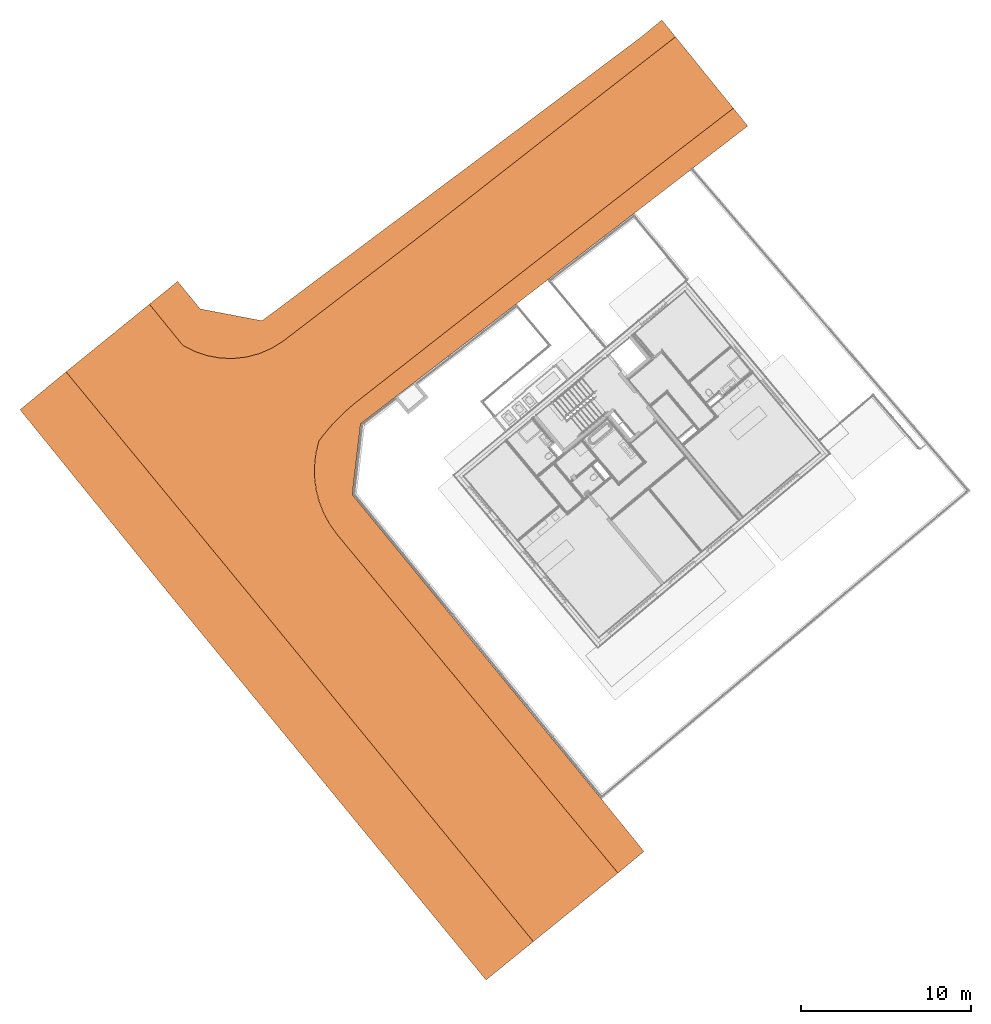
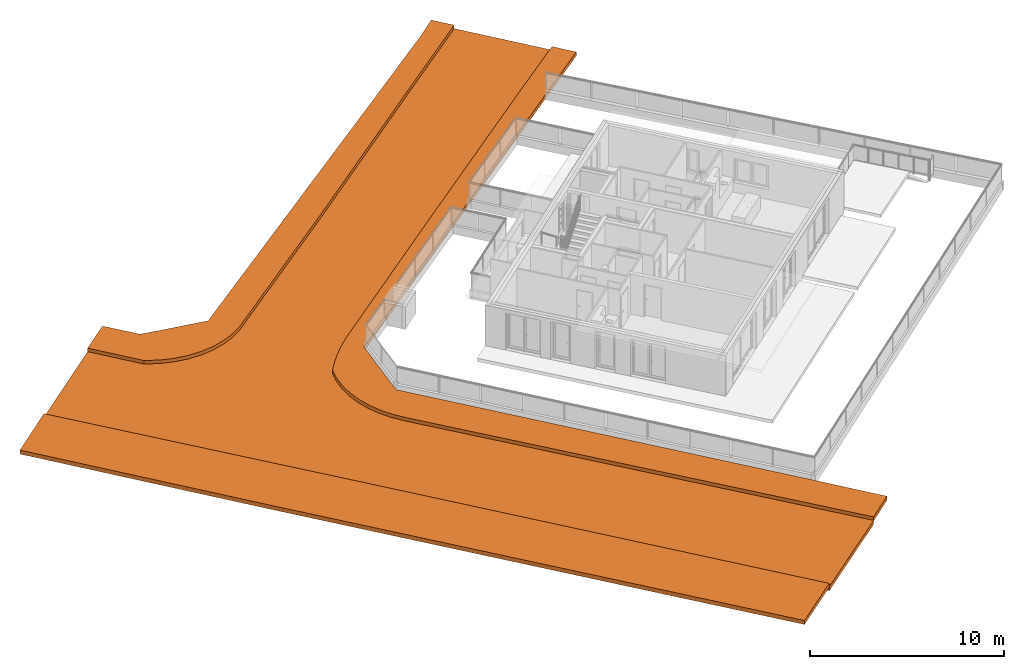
# One storey, part 75 of 75: 4 proxies.
"""IFC4 building model written with IfcOpenShell, lengths in metres."""

from ifc_helpers import new_model, entity, si_unit, converted_unit, derived_unit, direction, frame, origin_with_axes, place, context, subcontext, project, spatial, polygons, material, type_object, element, save


model = new_model("IFC4")

# Units and contexts
model_context = context("Model", 3, precision=1e-05, world=origin_with_axes(), true_north=direction((0.0, 1.0)))
body_context = subcontext(model_context, "Body", "Model", "MODEL_VIEW")
ifc_project = project(units=[si_unit("LENGTHUNIT", "METRE"), si_unit("AREAUNIT", "SQUARE_METRE"), si_unit("VOLUMEUNIT", "CUBIC_METRE"), converted_unit("PLANEANGLEUNIT", "DEGREE", entity("IfcPlaneAngleMeasure", 0.0174532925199), si_unit("PLANEANGLEUNIT", "RADIAN"), dimensions=[0, 0, 0, 0, 0, 0, 0]), converted_unit("TIMEUNIT", "Year", entity("IfcTimeMeasure", 31556926.0), si_unit("TIMEUNIT", "SECOND"), dimensions=[0, 0, 1, 0, 0, 0, 0]), si_unit("MASSUNIT", "GRAM", prefix="KILO"), si_unit("THERMODYNAMICTEMPERATUREUNIT", "DEGREE_CELSIUS"), si_unit("LUMINOUSINTENSITYUNIT", "LUMEN"), si_unit("ENERGYUNIT", "JOULE", prefix="MEGA"), derived_unit("THERMALCONDUCTANCEUNIT", [(si_unit("POWERUNIT", "WATT"), 1), (si_unit("LENGTHUNIT", "METRE"), -1), (si_unit("THERMODYNAMICTEMPERATUREUNIT", "KELVIN"), -1)]), derived_unit("SPECIFICHEATCAPACITYUNIT", [(si_unit("ENERGYUNIT", "JOULE"), 1), (si_unit("MASSUNIT", "GRAM", prefix="KILO"), -1), (si_unit("THERMODYNAMICTEMPERATUREUNIT", "KELVIN"), -1)]), derived_unit("MASSDENSITYUNIT", [(si_unit("MASSUNIT", "GRAM", prefix="KILO"), 1), (si_unit("VOLUMEUNIT", "CUBIC_METRE"), -1)])], contexts=[model_context])

# Site, building, storey
site_placement = place(None, frame((-0.00153261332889, -0.00661245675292, 0.0), z_axis=(0.0, 0.0, 1.0), x_axis=(1.0, 0.0, 0.0)))
site = spatial("IfcSite", under=ifc_project, at=site_placement, Name="Gelände", CompositionType="ELEMENT")
building_placement = place(site_placement, origin_with_axes())
building = spatial("IfcBuilding", under=site, at=building_placement, Name="Gebäude", CompositionType="ELEMENT")
storey_placement = place(building_placement, frame((0.0, 0.0, -0.22), z_axis=(0.0, 0.0, 1.0), x_axis=(1.0, 0.0, 0.0)))
storey = spatial("IfcBuildingStorey", under=building, at=storey_placement, Name="EG", CompositionType="ELEMENT", Elevation=-0.22)

# Proxies
ifc_material_1 = material(Name="Pflaster")
building_element_proxy_type_1 = type_object("IfcBuildingElementProxyType", Name="Pflaster", PredefinedType="USERDEFINED")
proxy_1_placement = place(storey_placement, frame((-26.5259554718, 29.0463020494, 0.22), z_axis=(0.0, 0.0, 1.0), x_axis=(1.0, 0.0, 0.0)))
element("IfcBuildingElementProxy", 1, at=proxy_1_placement, inside=storey, type_object=building_element_proxy_type_1, material=ifc_material_1, Name="Morph-004", ObjectType="Verkehrsflaeche", PredefinedType="USERDEFINED", context=body_context, shape_type="Tessellation", body=[
    polygons([(2.64060027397, -2.76313121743, 0.0), (2.64060027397, -2.76313121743, -0.25), (3.37632072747, -3.01538056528, -0.25), (3.37632072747, -3.01538056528, 0.0), (1.94985685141, -2.40565696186, -0.25), (1.94985685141, -2.40565696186, 0.0), (0.0, 0.0, -0.25), (1.6525406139, 1.3394335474, -0.25), (2.97328624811, -0.273368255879, -0.25), (6.60291958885, -0.970626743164, -0.25), (25.3665045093, 13.0633605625, -0.25), (28.8884603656, 15.7111273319, -0.25), (30.0549399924, 16.6702574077, -0.25), (30.8562298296, 15.6816574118, -0.25), (26.2928488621, 12.1336889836, -0.25), (16.3760603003, 4.37686673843, -0.25), (7.81940387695, -2.1833044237, -0.25), (7.15768530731, -2.59201318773, -0.25), (6.44315769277, -2.89920141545, -0.25), (5.69128916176, -3.0982190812, -0.25), (4.91835620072, -3.1847578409, -0.25), (4.14109129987, -3.1569442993, -0.25), (4.14109129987, -3.1569442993, 0.0), (4.91835620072, -3.1847578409, 0.0), (5.69128916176, -3.0982190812, 0.0), (6.44315769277, -2.89920141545, 0.0), (7.15768530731, -2.59201318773, 0.0), (7.81940387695, -2.1833044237, 0.0), (16.3760603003, 4.37686673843, 0.0), (26.2928488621, 12.1336889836, 0.0), (30.8562298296, 15.6816574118, 0.0), (30.0549399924, 16.6702574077, 0.0), (28.8884603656, 15.7111273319, 0.0), (25.3665045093, 13.0633605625, 0.0), (6.60291958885, -0.970626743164, 0.0), (2.97328624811, -0.273368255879, 0.0), (1.6525406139, 1.3394335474, 0.0), (0.0, 0.0, 0.0)], [[[1, 2, 3, 4]], [[5, 2, 1, 6]], [[2, 5, 7, 8, 9, 10, 11, 12, 13, 14, 15, 16, 17, 18, 19, 20, 21, 22, 3]], [[3, 22, 23, 4]], [[6, 1, 4, 23, 24, 25, 26, 27, 28, 29, 30, 31, 32, 33, 34, 35, 36, 37, 38]], [[5, 6, 38, 7]], [[7, 38, 37, 8]], [[36, 9, 8, 37]], [[9, 36, 35, 10]], [[10, 35, 34, 11]], [[12, 11, 34, 33]], [[12, 33, 32, 13]], [[32, 31, 14, 13]], [[30, 15, 14, 31]], [[29, 16, 15, 30]], [[28, 17, 16, 29]], [[27, 18, 17, 28]], [[19, 18, 27, 26]], [[20, 19, 26, 25]], [[21, 20, 25, 24]], [[22, 21, 24, 23]]], closed=True),
])
proxy_2_placement = place(storey_placement, frame((-4.0080135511, -8.3412899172, 0.22), z_axis=(0.0, 0.0, 1.0), x_axis=(1.0, 0.0, 0.0)))
element("IfcBuildingElementProxy", 2, at=proxy_2_placement, inside=storey, type_object=building_element_proxy_type_1, material=ifc_material_1, Name="Morph-003", ObjectType="Verkehrsflaeche", PredefinedType="USERDEFINED", context=body_context, shape_type="Tessellation", body=[
    polygons([(-21.3648049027, 20.398025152, 0.0), (-30.1116074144, 31.1998509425, 0.0), (-30.1116074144, 31.1998509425, -0.25), (-21.3648049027, 20.398025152, -0.25), (-2.7763295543, -2.2504541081, 0.0), (0.0, 0.0, 0.0), (-2.0170991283, 2.46015032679, 0.0), (-16.2282607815, 19.8307121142, 0.0), (-27.4100094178, 33.4224250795, 0.0), (-27.4100094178, 33.4224250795, -0.25), (-16.2282607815, 19.8307121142, -0.25), (-2.0170991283, 2.46015032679, -0.25), (0.0, 0.0, -0.25), (-2.7763295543, -2.2504541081, -0.25)], [[[1, 2, 3, 4]], [[2, 1, 5, 6, 7, 8, 9]], [[2, 9, 10, 3]], [[3, 10, 11, 12, 13, 14, 4]], [[5, 1, 4, 14]], [[5, 14, 13, 6]], [[7, 6, 13, 12]], [[8, 7, 12, 11]], [[10, 9, 8, 11]]], closed=True),
])
proxy_3_placement = place(storey_placement, frame((0.956047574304, -4.31807284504, 0.22), z_axis=(0.0, 0.0, 1.0), x_axis=(1.0, 0.0, 0.0)))
element("IfcBuildingElementProxy", 3, at=proxy_3_placement, inside=storey, type_object=building_element_proxy_type_1, material=ifc_material_1, Name="Morph-003", ObjectType="Verkehrsflaeche", PredefinedType="USERDEFINED", context=body_context, shape_type="Tessellation", body=[
    polygons([(-17.2343613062, 21.0586395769, -0.25), (-16.8805446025, 20.4170409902, -0.25), (-16.8805446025, 20.4170409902, 0.0), (-17.2343613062, 21.0586395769, 0.0), (-17.506551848, 21.7388949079, -0.25), (-17.6929803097, 22.447470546, -0.25), (-17.7908139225, 23.1735997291, -0.25), (-17.798566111, 23.9062489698, -0.25), (-17.7161190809, 24.6342857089, -0.25), (-17.5447256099, 25.346647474, -0.25), (-17.2792534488, 25.6920329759, -0.25), (-17.0017339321, 26.0278149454, -0.25), (-16.7125141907, 26.3535733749, -0.25), (-16.4119559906, 26.6689007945, -0.25), (-16.1004352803, 26.9734027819, -0.25), (-15.7783417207, 27.2666984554, -0.25), (-15.4460781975, 27.5484209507, -0.25), (-15.1040603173, 27.8182178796, -0.25), (-6.77946611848, 34.3429151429, -0.25), (3.3237325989, 42.2103262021, -0.25), (6.76822291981, 44.8586528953, -0.25), (7.61269654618, 43.8167744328, -0.25), (4.41572725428, 41.3576638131, -0.25), (-15.1012798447, 26.3499713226, -0.25), (-15.5880377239, 22.1984093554, -0.25), (-0.954514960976, 4.32468530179, -0.25), (1.52503005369, 1.26551984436, -0.25), (0.0, 0.0, -0.25), (-16.4504779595, 19.8238481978, -0.25), (-16.4504779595, 19.8238481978, 0.0), (-17.6929803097, 22.447470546, 0.0), (-17.506551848, 21.7388949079, 0.0), (0.0, 0.0, 0.0), (1.52503005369, 1.26551984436, 0.0), (-0.954514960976, 4.32468530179, 0.0), (-15.5880377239, 22.1984093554, 0.0), (-15.1012798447, 26.3499713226, 0.0), (4.41572725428, 41.3576638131, 0.0), (7.61269654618, 43.8167744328, 0.0), (6.76822291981, 44.8586528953, 0.0), (3.3237325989, 42.2103262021, 0.0), (-6.77946611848, 34.3429151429, 0.0), (-15.1040603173, 27.8182178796, 0.0), (-15.4460781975, 27.5484209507, 0.0), (-15.7783417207, 27.2666984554, 0.0), (-16.1004352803, 26.9734027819, 0.0), (-16.4119559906, 26.6689007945, 0.0), (-16.7125141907, 26.3535733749, 0.0), (-17.0017339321, 26.0278149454, 0.0), (-17.2792534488, 25.6920329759, 0.0), (-17.5447256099, 25.346647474, 0.0), (-17.7161190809, 24.6342857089, 0.0), (-17.798566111, 23.9062489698, 0.0), (-17.7908139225, 23.1735997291, 0.0)], [[[1, 2, 3, 4]], [[5, 6, 7, 8, 9, 10, 11, 12, 13, 14, 15, 16, 17, 18, 19, 20, 21, 22, 23, 24, 25, 26, 27, 28, 29, 2, 1]], [[2, 29, 30, 3]], [[31, 32, 4, 3, 30, 33, 34, 35, 36, 37, 38, 39, 40, 41, 42, 43, 44, 45, 46, 47, 48, 49, 50, 51, 52, 53, 54]], [[4, 32, 5, 1]], [[6, 5, 32, 31]], [[6, 31, 54, 7]], [[8, 7, 54, 53]], [[9, 8, 53, 52]], [[52, 51, 10, 9]], [[11, 10, 51, 50]], [[11, 50, 49, 12]], [[13, 12, 49, 48]], [[13, 48, 47, 14]], [[15, 14, 47, 46]], [[15, 46, 45, 16]], [[17, 16, 45, 44]], [[44, 43, 18, 17]], [[19, 18, 43, 42]], [[19, 42, 41, 20]], [[20, 41, 40, 21]], [[22, 21, 40, 39]], [[23, 22, 39, 38]], [[37, 24, 23, 38]], [[25, 24, 37, 36]], [[26, 25, 36, 35]], [[34, 27, 26, 35]], [[28, 27, 34, 33]], [[29, 28, 33, 30]]], closed=True),
])
ifc_material_2 = material(Name="Asphalt")
building_element_proxy_type_2 = type_object("IfcBuildingElementProxyType", Name="Asphalt", PredefinedType="USERDEFINED")
proxy_4_placement = place(storey_placement, frame((5.42619998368, -9.7048842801, 0.0), z_axis=(0.0, 0.0, 1.0), x_axis=(1.0, 0.0, 0.0)))
element("IfcBuildingElementProxy", 4, at=proxy_4_placement, inside=storey, type_object=building_element_proxy_type_2, material=ifc_material_2, Name="Morph-003", ObjectType="Verkehrsflaeche", PredefinedType="USERDEFINED", context=body_context, shape_type="Tessellation", body=[
    polygons([(-36.8442229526, 34.7860194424, -0.25), (-36.8442229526, 34.7860194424, 0.0), (-31.9521554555, 38.7511863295, 0.0), (-31.9521554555, 38.7511863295, -0.25), (-11.4513126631, 3.8237446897, -0.25), (-11.4513126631, 3.8237446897, 0.0), (-27.0337992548, 35.5664284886, 0.0), (-27.8110641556, 35.5942420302, 0.0), (-28.575834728, 35.7358057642, 0.0), (-29.3115551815, 35.988055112, 0.0), (-30.0022986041, 36.3455293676, 0.0), (-9.43421353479, 1.36359436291, 0.0), (-4.47015240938, 5.38681143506, 0.0), (-20.9206303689, 25.2106596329, 0.0), (-21.3552728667, 25.8016799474, 0.0), (-21.7126560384, 26.4423798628, 0.0), (-21.987177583, 27.1227158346, 0.0), (-22.1745341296, 27.8320229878, 0.0), (-22.2717886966, 28.5591822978, 0.0), (-22.2774167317, 29.2927948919, 0.0), (-22.1913300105, 30.0213607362, 0.0), (-22.0148780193, 30.7334589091, 0.0), (-21.7494058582, 31.078844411, 0.0), (-21.4718863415, 31.4146263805, 0.0), (-21.1826666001, 31.74038481, 0.0), (-20.8821083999, 32.0557122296, 0.0), (-20.5705876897, 32.3602142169, 0.0), (-20.2484941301, 32.6535098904, 0.0), (-19.9162306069, 32.9352323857, 0.0), (-19.5742127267, 33.2050293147, 0.0), (-11.2496185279, 39.7297265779, 0.0), (-1.14641981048, 47.5971376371, 0.0), (2.29807051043, 50.2454643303, 0.0), (-1.09592562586, 54.4328437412, 0.0), (-5.65930659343, 50.884875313, 0.0), (-15.5760951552, 43.1280530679, 0.0), (-24.1327515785, 36.5678819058, 0.0), (-24.7944701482, 36.1591731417, 0.0), (-25.5089977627, 35.851984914, 0.0), (-26.2608662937, 35.6529672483, 0.0), (-30.0022986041, 36.3455293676, -0.25), (-27.8110641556, 35.5942420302, -0.25), (-27.0337992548, 35.5664284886, -0.25), (-26.2608662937, 35.6529672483, -0.25), (-25.5089977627, 35.851984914, -0.25), (-24.7944701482, 36.1591731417, -0.25), (-24.1327515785, 36.5678819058, -0.25), (-15.5760951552, 43.1280530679, -0.25), (-5.65930659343, 50.884875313, -0.25), (-1.09592562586, 54.4328437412, -0.25), (2.29807051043, 50.2454643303, -0.25), (-1.14641981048, 47.5971376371, -0.25), (-11.2496185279, 39.7297265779, -0.25), (-19.5742127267, 33.2050293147, -0.25), (-19.9162306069, 32.9352323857, -0.25), (-20.2484941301, 32.6535098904, -0.25), (-20.5705876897, 32.3602142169, -0.25), (-20.8821083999, 32.0557122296, -0.25), (-21.1826666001, 31.74038481, -0.25), (-21.4718863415, 31.4146263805, -0.25), (-21.7494058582, 31.078844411, -0.25), (-22.0148780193, 30.7334589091, -0.25), (-22.1913300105, 30.0213607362, -0.25), (-22.2774167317, 29.2927948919, -0.25), (-22.2717886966, 28.5591822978, -0.25), (-22.1745341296, 27.8320229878, -0.25), (-21.987177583, 27.1227158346, -0.25), (-21.7126560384, 26.4423798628, -0.25), (-21.3552728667, 25.8016799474, -0.25), (-20.9206303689, 25.2106596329, -0.25), (-4.47015240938, 5.38681143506, -0.25), (-9.43421353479, 1.36359436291, -0.25), (-29.3115551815, 35.988055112, -0.25), (-28.575834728, 35.7358057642, -0.25)], [[[1, 2, 3, 4]], [[2, 1, 5, 6]], [[7, 8, 9, 10, 11, 3, 2, 6, 12, 13, 14, 15, 16, 17, 18, 19, 20, 21, 22, 23, 24, 25, 26, 27, 28, 29, 30, 31, 32, 33, 34, 35, 36, 37, 38, 39, 40]], [[41, 4, 3, 11]], [[42, 43, 44, 45, 46, 47, 48, 49, 50, 51, 52, 53, 54, 55, 56, 57, 58, 59, 60, 61, 62, 63, 64, 65, 66, 67, 68, 69, 70, 71, 72, 5, 1, 4, 41, 73, 74]], [[5, 72, 12, 6]], [[43, 42, 8, 7]], [[42, 74, 9, 8]], [[73, 10, 9, 74]], [[10, 73, 41, 11]], [[72, 71, 13, 12]], [[70, 14, 13, 71]], [[70, 69, 15, 14]], [[69, 68, 16, 15]], [[68, 67, 17, 16]], [[67, 66, 18, 17]], [[65, 19, 18, 66]], [[65, 64, 20, 19]], [[64, 63, 21, 20]], [[22, 21, 63, 62]], [[62, 61, 23, 22]], [[61, 60, 24, 23]], [[60, 59, 25, 24]], [[26, 25, 59, 58]], [[58, 57, 27, 26]], [[27, 57, 56, 28]], [[56, 55, 29, 28]], [[55, 54, 30, 29]], [[54, 53, 31, 30]], [[53, 52, 32, 31]], [[52, 51, 33, 32]], [[33, 51, 50, 34]], [[50, 49, 35, 34]], [[48, 36, 35, 49]], [[47, 37, 36, 48]], [[47, 46, 38, 37]], [[45, 39, 38, 46]], [[45, 44, 40, 39]], [[44, 43, 7, 40]]], closed=True),
])

save(model, "model.ifc")
